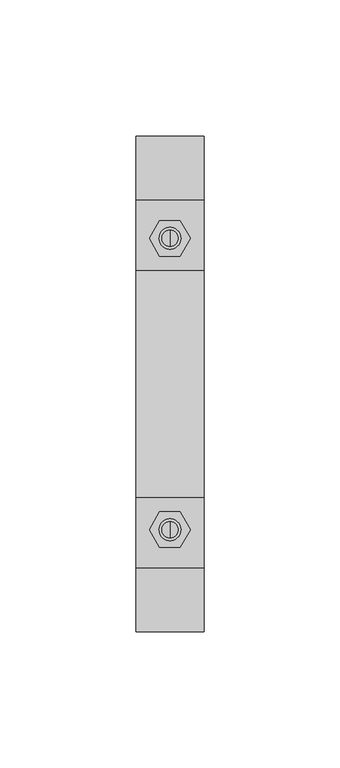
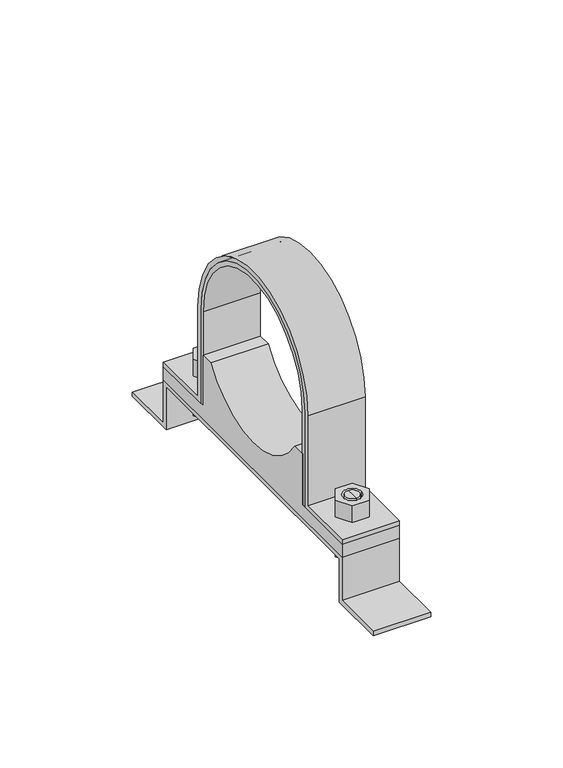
"""IFC4 building model written with IfcOpenShell, lengths in millimetres: valve geometry, Superfix DG3 Clamp : Superfix DG3 Clamp."""

from ifc_helpers import new_model, si_unit, point, frame, frame_2d, origin, place, context, project, spatial, polyline, circle_curve, trimmed, segment, composite_curve, outline, extrude, source, transform, mapped, element, save
from ifc_brep_helpers import plane_surface, cylinder_surface, advanced_brep


def valve_f80b1ea0(model_context):
    return source(origin(), model_context, "Body", "SolidModel", [
        advanced_brep(
        [(0.0, 56.5, 7.0), (0.0, 50.5, 7.0), (0.0, 50.5, 20.0), (0.0, 56.5, 20.0), (0.0, 53.5, 7.0)],
        [
            (0, 1, circle_curve(frame((0.0, 53.5, 7.0), z_axis=(0.0, 0.0, 1.0), x_axis=(0.0, 1.0, 0.0)), 3.0)),
            (1, 2),
            (2, 3, circle_curve(frame((0.0, 53.5, 20.0), z_axis=(0.0, 0.0, -1.0), x_axis=(0.0, 1.0, 0.0)), 3.0)),
            (3, 0),
            (1, 0, circle_curve(frame((0.0, 53.5, 7.0), z_axis=(0.0, 0.0, 1.0), x_axis=(0.0, 1.0, 0.0)), 3.0)),
            (3, 2, circle_curve(frame((0.0, 53.5, 20.0), z_axis=(0.0, 0.0, -1.0), x_axis=(0.0, 1.0, 0.0)), 3.0)),
            (0, 4),
            (4, 1),
        ],
        [
            cylinder_surface(frame((0.0, 53.5, 69.7806094), z_axis=(0.0, 0.0, 1.0), x_axis=(0.0, 1.0, 0.0)), 3.0),
            plane_surface(frame((0.0, 53.5, 7.0), z_axis=(0.0, 0.0, -1.0), x_axis=(0.0, 1.0, 0.0))),
            plane_surface(frame((13.75, -67.5, 20.0), z_axis=(0.0, 0.0, 1.0), x_axis=(-1.0, 0.0, 0.0))),
        ],
        [
            (0, [[1, 2, 3, 4]]),
            (0, [[5, -4, 6, -2]]),
            (1, [[-1, 7, 8]]),
            (1, [[-5, -8, -7]]),
            (2, [[-3, -6]]),
        ],
    ),
        advanced_brep(
        [(0.0, 50.5, 38.0), (0.0, 56.5, 38.0), (0.0, 56.5, 28.0), (0.0, 50.5, 28.0), (0.0, 53.5, 38.0)],
        [
            (0, 1, circle_curve(frame((0.0, 53.5, 38.0), z_axis=(0.0, 0.0, -1.0), x_axis=(0.0, 1.0, 0.0)), 3.0)),
            (1, 2),
            (2, 3, circle_curve(frame((0.0, 53.5, 28.0), z_axis=(0.0, 0.0, 1.0), x_axis=(0.0, 1.0, 0.0)), 3.0)),
            (3, 0),
            (1, 0, circle_curve(frame((0.0, 53.5, 38.0), z_axis=(0.0, 0.0, -1.0), x_axis=(0.0, 1.0, 0.0)), 3.0)),
            (3, 2, circle_curve(frame((0.0, 53.5, 28.0), z_axis=(0.0, 0.0, 1.0), x_axis=(0.0, 1.0, 0.0)), 3.0)),
            (0, 4),
            (4, 1),
        ],
        [
            cylinder_surface(frame((0.0, 53.5, 69.7806094), z_axis=(0.0, 0.0, 1.0), x_axis=(0.0, 1.0, 0.0)), 3.0),
            plane_surface(frame((0.0, 53.5, 38.0), z_axis=(0.0, 0.0, 1.0), x_axis=(0.0, 1.0, 0.0))),
            plane_surface(frame((13.75, 67.5, 28.0), z_axis=(0.0, 0.0, -1.0), x_axis=(-1.0, 0.0, 0.0))),
        ],
        [
            (0, [[1, 2, 3, 4]]),
            (0, [[5, -4, 6, -2]]),
            (1, [[-1, 7, 8]]),
            (1, [[-5, -8, -7]]),
            (2, [[-3, -6]]),
        ],
    ),
        advanced_brep(
        [(0.0, -56.5, 38.0), (0.0, -50.5, 38.0), (0.0, -50.5, 28.0), (0.0, -56.5, 28.0), (0.0, -53.5, 38.0)],
        [
            (0, 1, circle_curve(frame((0.0, -53.5, 38.0), z_axis=(0.0, 0.0, -1.0), x_axis=(0.0, -1.0, 0.0)), 3.0)),
            (1, 2),
            (2, 3, circle_curve(frame((0.0, -53.5, 28.0), z_axis=(0.0, 0.0, 1.0), x_axis=(0.0, -1.0, 0.0)), 3.0)),
            (3, 0),
            (1, 0, circle_curve(frame((0.0, -53.5, 38.0), z_axis=(0.0, 0.0, -1.0), x_axis=(0.0, -1.0, 0.0)), 3.0)),
            (3, 2, circle_curve(frame((0.0, -53.5, 28.0), z_axis=(0.0, 0.0, 1.0), x_axis=(0.0, -1.0, 0.0)), 3.0)),
            (0, 4),
            (4, 1),
        ],
        [
            cylinder_surface(frame((0.0, -53.5, 69.7806094), z_axis=(0.0, 0.0, -1.0), x_axis=(0.0, -1.0, 0.0)), 3.0),
            plane_surface(frame((0.0, -53.5, 38.0), z_axis=(0.0, 0.0, 1.0), x_axis=(0.0, -1.0, 0.0))),
            plane_surface(frame((13.75, 67.5, 28.0), z_axis=(0.0, 0.0, -1.0), x_axis=(-1.0, 0.0, 0.0))),
        ],
        [
            (0, [[1, 2, 3, 4]]),
            (0, [[5, -4, 6, -2]]),
            (1, [[-1, 7, 8]]),
            (1, [[-5, -8, -7]]),
            (2, [[-3, -6]]),
        ],
    ),
        advanced_brep(
        [(0.0, -50.5, 7.0), (0.0, -56.5, 7.0), (0.0, -56.5, 20.0), (0.0, -50.5, 20.0), (0.0, -53.5, 7.0)],
        [
            (0, 1, circle_curve(frame((0.0, -53.5, 7.0), z_axis=(0.0, 0.0, 1.0), x_axis=(0.0, -1.0, 0.0)), 3.0)),
            (1, 2),
            (2, 3, circle_curve(frame((0.0, -53.5, 20.0), z_axis=(0.0, 0.0, -1.0), x_axis=(0.0, -1.0, 0.0)), 3.0)),
            (3, 0),
            (1, 0, circle_curve(frame((0.0, -53.5, 7.0), z_axis=(0.0, 0.0, 1.0), x_axis=(0.0, -1.0, 0.0)), 3.0)),
            (3, 2, circle_curve(frame((0.0, -53.5, 20.0), z_axis=(0.0, 0.0, -1.0), x_axis=(0.0, -1.0, 0.0)), 3.0)),
            (0, 4),
            (4, 1),
        ],
        [
            cylinder_surface(frame((0.0, -53.5, 69.7806094), z_axis=(0.0, 0.0, -1.0), x_axis=(0.0, -1.0, 0.0)), 3.0),
            plane_surface(frame((0.0, -53.5, 7.0), z_axis=(0.0, 0.0, -1.0), x_axis=(0.0, -1.0, 0.0))),
            plane_surface(frame((13.75, -67.5, 20.0), z_axis=(0.0, 0.0, 1.0), x_axis=(-1.0, 0.0, 0.0))),
        ],
        [
            (0, [[1, 2, 3, 4]]),
            (0, [[5, -4, 6, -2]]),
            (1, [[-1, 7, 8]]),
            (1, [[-5, -8, -7]]),
            (2, [[-3, -6]]),
        ],
    ),
        extrude(outline(composite_curve([segment(trimmed(circle_curve(frame_2d((0.0, 71.5)), 39.5), [point((39.5, 71.5))], [point((-39.5, 71.5))], True, "CARTESIAN"), True, "CONTINUOUS"), segment(polyline([(-39.5, 71.5), (-39.5, 28.0), (-67.5, 28.0), (-67.5, 30.0), (-41.5, 30.0), (-41.5, 71.5)]), True, "CONTINUOUS"), segment(trimmed(circle_curve(frame_2d((0.0, 71.5)), 41.5), [point((-41.5, 71.5))], [point((41.5, 71.5))], False, "CARTESIAN"), True, "CONTINUOUS"), segment(polyline([(41.5, 71.5), (41.5, 30.0), (67.5, 30.0), (67.5, 28.0), (39.5, 28.0), (39.5, 71.5)]), True, "CONTINUOUS")], self_intersect=False)), frame((-12.5, 0.0, 0.0), z_axis=(1.0, 0.0, 0.0), x_axis=(0.0, 1.0, 0.0)), (0.0, 0.0, 1.0), 25.0),
        extrude(outline(polyline([(7.5055535, -53.5), (3.7527767, -60.0), (-3.7527767, -60.0), (-7.5055535, -53.5), (-3.7527767, -47.0), (3.7527767, -47.0), (7.5055535, -53.5)]), holes=[composite_curve([segment(trimmed(circle_curve(frame_2d((0.0, -53.5)), 4.0), [point((4.0, -53.5))], [point((-4.0, -53.5))], True, "CARTESIAN"), True, "CONTINUOUS"), segment(trimmed(circle_curve(frame_2d((0.0, -53.5)), 4.0), [point((-4.0, -53.5))], [point((4.0, -53.5))], True, "CARTESIAN"), True, "CONTINUOUS")], self_intersect=False)]), frame((0.0, 0.0, 30.0), z_axis=(0.0, 0.0, 1.0), x_axis=(1.0, 0.0, 0.0)), (0.0, 0.0, 1.0), 8.0),
        extrude(outline(polyline([(7.5055535, 53.5), (3.7527767, 47.0), (-3.7527767, 47.0), (-7.5055535, 53.5), (-3.7527767, 60.0), (3.7527767, 60.0), (7.5055535, 53.5)]), holes=[composite_curve([segment(trimmed(circle_curve(frame_2d((0.0, 53.5)), 4.0), [point((4.0, 53.5))], [point((-4.0, 53.5))], True, "CARTESIAN"), True, "CONTINUOUS"), segment(trimmed(circle_curve(frame_2d((0.0, 53.5)), 4.0), [point((-4.0, 53.5))], [point((4.0, 53.5))], True, "CARTESIAN"), True, "CONTINUOUS")], self_intersect=False)]), frame((0.0, 0.0, 30.0), z_axis=(0.0, 0.0, 1.0), x_axis=(1.0, 0.0, 0.0)), (0.0, 0.0, 1.0), 8.0),
        extrude(outline(polyline([(7.5055535, -53.5), (3.7527767, -60.0), (-3.7527767, -60.0), (-7.5055535, -53.5), (-3.7527767, -47.0), (3.7527767, -47.0), (7.5055535, -53.5)]), holes=[composite_curve([segment(trimmed(circle_curve(frame_2d((0.0, -53.5)), 4.0), [point((4.0, -53.5))], [point((-4.0, -53.5))], True, "CARTESIAN"), True, "CONTINUOUS"), segment(trimmed(circle_curve(frame_2d((0.0, -53.5)), 4.0), [point((-4.0, -53.5))], [point((4.0, -53.5))], True, "CARTESIAN"), True, "CONTINUOUS")], self_intersect=False)]), frame((0.0, 0.0, 12.0), z_axis=(0.0, 0.0, 1.0), x_axis=(1.0, 0.0, 0.0)), (0.0, 0.0, 1.0), 8.0),
        extrude(outline(polyline([(7.5055535, 53.5), (3.7527767, 47.0), (-3.7527767, 47.0), (-7.5055535, 53.5), (-3.7527767, 60.0), (3.7527767, 60.0), (7.5055535, 53.5)]), holes=[composite_curve([segment(trimmed(circle_curve(frame_2d((0.0, 53.5)), 4.0), [point((4.0, 53.5))], [point((-4.0, 53.5))], True, "CARTESIAN"), True, "CONTINUOUS"), segment(trimmed(circle_curve(frame_2d((0.0, 53.5)), 4.0), [point((-4.0, 53.5))], [point((4.0, 53.5))], True, "CARTESIAN"), True, "CONTINUOUS")], self_intersect=False)]), frame((0.0, 0.0, 12.0), z_axis=(0.0, 0.0, 1.0), x_axis=(1.0, 0.0, 0.0)), (0.0, 0.0, 1.0), 8.0),
        extrude(outline(composite_curve([segment(polyline([(-67.5, 22.0), (-67.5, 28.0), (-37.5, 28.0), (-37.5, 51.5), (-31.7214439, 51.5)]), True, "CONTINUOUS"), segment(trimmed(circle_curve(frame_2d((0.0, 71.5)), 37.5), [point((-31.7214439, 51.5))], [point((31.7214439, 51.5))], True, "CARTESIAN"), True, "CONTINUOUS"), segment(polyline([(31.7214439, 51.5), (37.5, 51.5), (37.5, 28.0), (67.5, 28.0), (67.5, 22.0), (-67.5, 22.0)]), True, "CONTINUOUS")], self_intersect=False)), frame((-12.5, 0.0, 0.0), z_axis=(1.0, 0.0, 0.0), x_axis=(0.0, 1.0, 0.0)), (0.0, 0.0, 1.0), 25.0),
        extrude(outline(polyline([(-91.0, 2.0), (-67.5, 2.0), (-67.5, 22.0), (0.0, 22.0), (67.5, 22.0), (67.5, 2.0), (91.0, 2.0), (91.0, 0.0), (65.5, 0.0), (65.5, 20.0), (0.0, 20.0), (-65.5, 20.0), (-65.5, 0.0), (-91.0, 0.0), (-91.0, 2.0)])), frame((-12.5, 0.0, 0.0), z_axis=(1.0, 0.0, 0.0), x_axis=(0.0, 1.0, 0.0)), (0.0, 0.0, 1.0), 25.0),
        extrude(outline(composite_curve([segment(trimmed(circle_curve(frame_2d((0.0, 71.5)), 37.5), [point((37.5, 71.5))], [point((-37.5, 71.5))], True, "CARTESIAN"), True, "CONTINUOUS"), segment(polyline([(-37.5, 71.5), (-37.5, 28.0), (-39.5, 28.0), (-39.5, 71.5)]), True, "CONTINUOUS"), segment(trimmed(circle_curve(frame_2d((0.0, 71.5)), 39.5), [point((-39.5, 71.5))], [point((39.5, 71.5))], False, "CARTESIAN"), True, "CONTINUOUS"), segment(polyline([(39.5, 71.5), (39.5, 28.0), (37.5, 28.0), (37.5, 71.5)]), True, "CONTINUOUS")], self_intersect=False)), frame((-12.5, 0.0, 0.0), z_axis=(1.0, 0.0, 0.0), x_axis=(0.0, 1.0, 0.0)), (0.0, 0.0, 1.0), 25.0),
    ])


if __name__ == "__main__":
    model = new_model("IFC4")
    model_context = context("Model", 3, world=origin())
    ifc_project = project(units=[si_unit("LENGTHUNIT", "METRE", prefix="MILLI")], contexts=[model_context])
    site = spatial("IfcSite", under=ifc_project)
    building = spatial("IfcBuilding", under=site)
    placement = place(None, origin())
    valve_shape = valve_f80b1ea0(model_context)
    element("IfcValve", 1, ObjectType="Superfix DG3 Clamp : Superfix DG3 Clamp", at=placement, inside=building, context=model_context, shape_type="MappedRepresentation", body=[
        mapped(valve_shape, transform((0.0, 0.0, 0.0), x_axis=(1.0, 0.0, 0.0), y_axis=(0.0, 1.0, 0.0), z_axis=(0.0, 0.0, 1.0))),
    ])
    save(model, "model.ifc")
